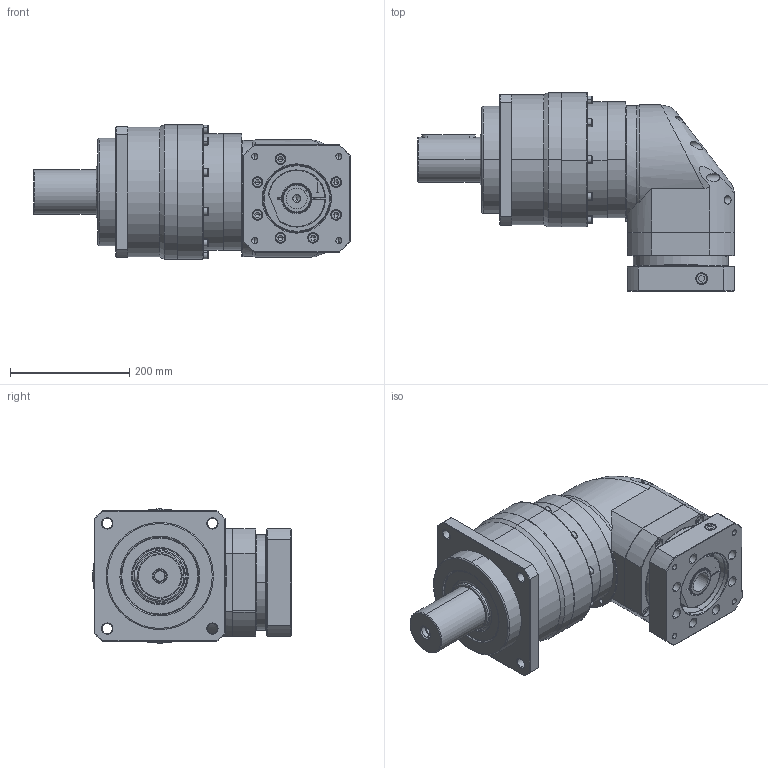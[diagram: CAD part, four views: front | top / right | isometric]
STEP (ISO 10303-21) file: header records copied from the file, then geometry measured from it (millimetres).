
FILE_DESCRIPTION (( 'STEP AP214' ), '1' );
FILE_NAME ('EVB220D-L2-S2-35-114.3-200-M12-82.STEP', '2023-04-01T07:51:39', ( 'Admin' ), ( '' ), 'SwSTEP 2.0', 'SolidWorks 2018', '' );
FILE_SCHEMA (( 'AUTOMOTIVE_DESIGN' ));
Length unit declared in the file: millimetre
Products named in the file (18): 输入法兰PAB180D-114.3X43.5XM12; EVB220D-L2-S2-35-114.3-200-M12-82; FAD200D一级内齿圈壳体; FB220输出内齿圈壳体; 怀堤傷褲极VRT200; 怀堤傷蚐猾; M8-16樓粟菜; 输入端壳体PAR180D; 囀鞠褒踡隅蹟隊M20X16; 输入轴PAR180D-42; FB220怀堤俴陎殤; EVB220D-L2; EVT200D珨撰眻褒眊极+菜え; 输入轴调整套35-42; M10-20樓粟菜; hexagon socket head cap screws gb_GB_FASTENER_SCREWS_HSHCS M8X55-N; 输入轴锁紧环49X96X22; spring lock washers--normal type gb_GB_FASTENER_WASHER_SW 8
Assembly tree (56 placements, depth 3):
  EVB220D-L2-S2-35-114.3-200-M12-82
    M8-16樓粟菜  x9
    怀堤傷褲极VRT200
    EVT200D珨撰眻褒眊极+菜え
    M10-20樓粟菜  x14
    输入端壳体PAR180D
    输入轴PAR180D-42
    输入轴锁紧环49X96X22
    囀鞠褒踡隅蹟隊M20X16
    EVB220D-L2
      FB220输出内齿圈壳体
      FB220怀堤俴陎殤
      怀堤傷蚐猾
      spring lock washers--normal type gb_GB_FASTENER_WASHER_SW 8  x10
      hexagon socket head cap screws gb_GB_FASTENER_SCREWS_HSHCS M8X55-N  x10
      FAD200D一级内齿圈壳体
    输入法兰PAB180D-114.3X43.5XM12
    输入轴调整套35-42
Bounding box: 532 x 333.64 x 225.5 mm (x, y, z)
Volume: 11850772.8 mm3; surface area: 1225121.5 mm2
Topology: 32 solids, 79 shells, 1713 faces, 4083 edges, 2555 vertices
Faces by surface type: cylinder 678, plane 626, cone 244, bspline 127, torus 38
Entity records: 31647 total; most frequent: CARTESIAN_POINT 11814, DIRECTION 4137, ORIENTED_EDGE 3834, EDGE_CURVE 1925, AXIS2_PLACEMENT_3D 1730, VERTEX_POINT 1237, EDGE_LOOP 1004, CIRCLE 944
